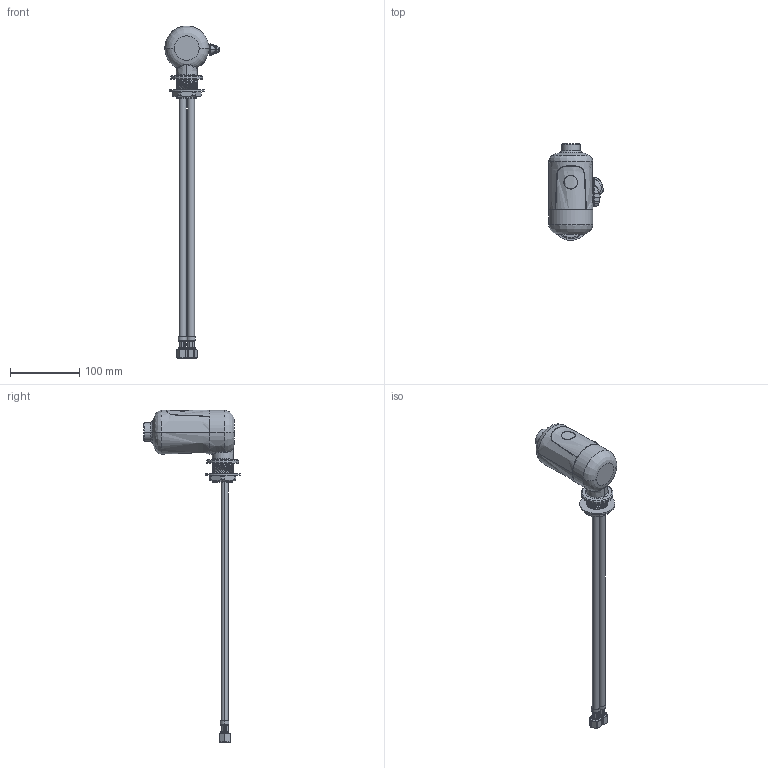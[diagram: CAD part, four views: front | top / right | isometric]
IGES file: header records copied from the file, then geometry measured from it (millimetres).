
Start section:  PTC IGES file: 116-424-21-1_REV030910.igs
Global section: file name: 116-424-21-1_REV030910.igs; native system: Pro/ENGINEER by Parametric Technology Corporation; preprocessor: 2009230; author: sdmitruk; organization: Unknown; date: 20100309.091508; units: inch
Bounding box: 78.53 x 139.7 x 479.67 mm (x, y, z)
Surface area: 82689.6 mm2 (no closed solid volume)
Topology: 0 solids, 25 shells, 350 faces, 993 edges, 645 vertices
Faces by surface type: bspline 189, revolution 161
